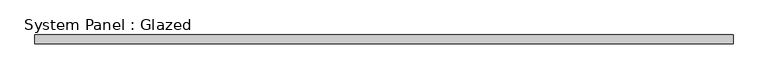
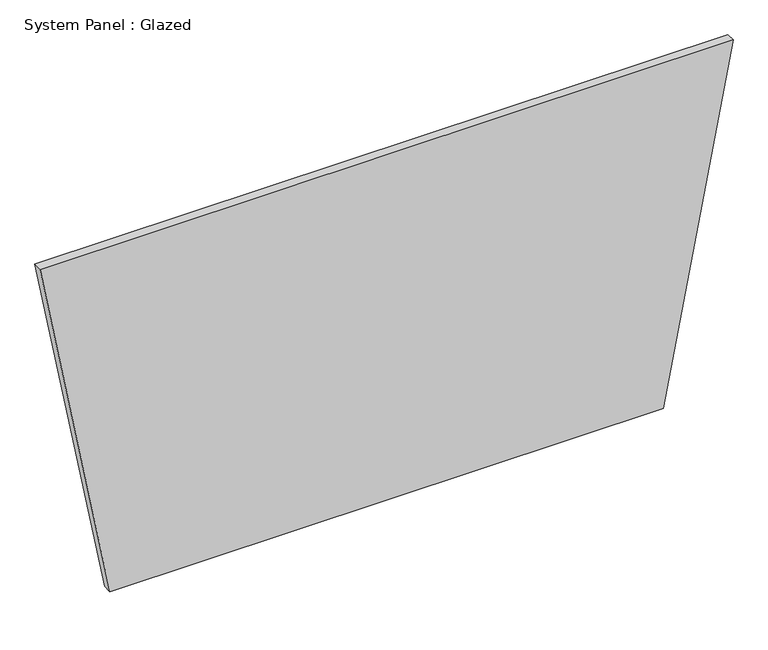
"""IFC4 building model written with IfcOpenShell, lengths in millimetres: plate geometry, System Panel : Glazed."""

from ifc_helpers import new_model, si_unit, frame, origin, place, context, project, spatial, polyline, outline, extrude, source, transform, mapped, element, save


def system_panel_glazed_f3dd288a(model_context):
    return source(origin(), model_context, "Body", "SweptSolid", [
        extrude(outline(polyline([(0.0, -793.1775963), (0.0, 793.1775963), (1047.8166558, 993.5335193), (1047.8166558, -993.5335193), (0.0, -793.1775963)])), frame((0.0, -44.45, 0.0), z_axis=(0.0, 1.0, 0.0), x_axis=(0.0, 0.0, 1.0)), (0.0, 0.0, 1.0), 25.4),
    ])


if __name__ == "__main__":
    model = new_model("IFC4")
    model_context = context("Model", 3, world=origin())
    ifc_project = project(units=[si_unit("LENGTHUNIT", "METRE", prefix="MILLI")], contexts=[model_context])
    site = spatial("IfcSite", under=ifc_project)
    building = spatial("IfcBuilding", under=site)
    placement = place(None, origin())
    system_panel_glazed_shape = system_panel_glazed_f3dd288a(model_context)
    element("IfcPlate", 1, ObjectType="System Panel : Glazed", at=placement, inside=building, context=model_context, shape_type="MappedRepresentation", body=[
        mapped(system_panel_glazed_shape, transform((0.0, 0.0, 0.0), x_axis=(1.0, 0.0, 0.0), y_axis=(0.0, 1.0, 0.0), z_axis=(0.0, 0.0, 1.0))),
    ])
    save(model, "model.ifc")
